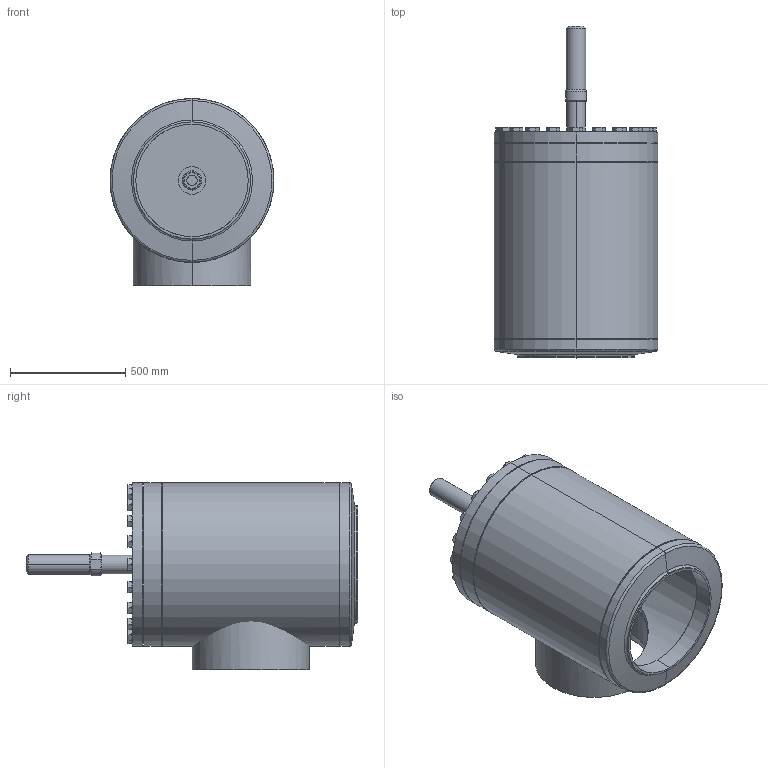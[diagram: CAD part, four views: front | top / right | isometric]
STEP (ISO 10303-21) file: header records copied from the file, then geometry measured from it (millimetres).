
FILE_DESCRIPTION (( 'STEP AP214' ), '1' );
FILE_NAME ('AVR26400C28A5A3AA00_DN500_R1_PS25.STEP', '2010-06-16T09:54:45', ( 'Eckhard Grams' ), ( 'AWP Kälte Klima Armaturen GmbH' ), 'SwSTEP 2.0', 'SolidWorks 2002296', '' );
FILE_SCHEMA (( 'AUTOMOTIVE_DESIGN' ));
Length unit declared in the file: millimetre
Products named in the file (15): AVR26400C28A5A3AA00_DN500_R1_PS25; Kappe26300_DN500geschw_Standard; Geh,kpl 26300B28-5030AA1_DN500_R1_Standard; Kopfstück26300-DN500_Standard; Gehäuse26300-DN500_Standard; Boden26300-DN500_Standard; Rohrstutzen-A26300-DN500_R1_Standard; bead-DN500-2_Standard; bead-DN500-1_Standard; AVR26300B28_Deck+Schr-DN500_Standard; Deckel,kpl26300B28-DN500_Standard; bead-deck263-500_Standard; Buchse1 f Deckel26300-DN500_Standard; Scheibe f Deckel26300-DN500_Standard; Sechskantschraube-DIN933_M33x 80
Assembly tree (33 placements, depth 4):
  AVR26400C28A5A3AA00_DN500_R1_PS25
    Kappe26300_DN500geschw_Standard
    AVR26300B28_Deck+Schr-DN500_Standard
      Sechskantschraube-DIN933_M33x 80  x20
      Deckel,kpl26300B28-DN500_Standard
        Buchse1 f Deckel26300-DN500_Standard
        bead-deck263-500_Standard
        Scheibe f Deckel26300-DN500_Standard
    Geh,kpl 26300B28-5030AA1_DN500_R1_Standard
      Rohrstutzen-A26300-DN500_R1_Standard
      Kopfstück26300-DN500_Standard
      Gehäuse26300-DN500_Standard
      bead-DN500-2_Standard
      Boden26300-DN500_Standard
      bead-DN500-1_Standard
Bounding box: 711.44 x 1440 x 811.73 mm (x, y, z)
Volume: 98745676.3 mm3; surface area: 7439981 mm2
Topology: 30 solids, 30 shells, 667 faces, 1428 edges, 852 vertices
Faces by surface type: cone 298, plane 216, cylinder 141, bspline 8, torus 4
Entity records: 8345 total; most frequent: CARTESIAN_POINT 2972, DIRECTION 1052, ORIENTED_EDGE 880, AXIS2_PLACEMENT_3D 459, EDGE_CURVE 440, VERTEX_POINT 282, EDGE_LOOP 264, CIRCLE 236
